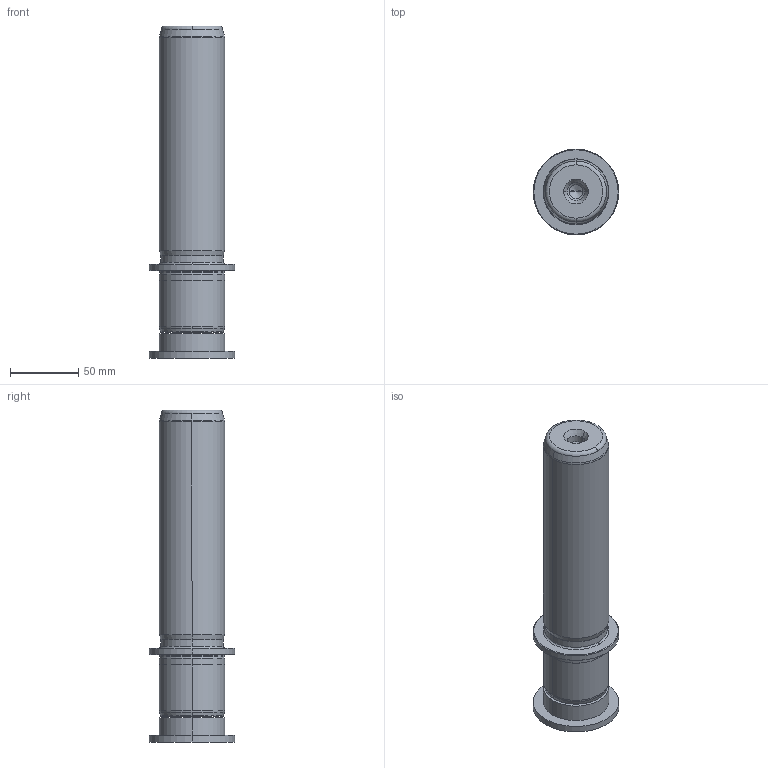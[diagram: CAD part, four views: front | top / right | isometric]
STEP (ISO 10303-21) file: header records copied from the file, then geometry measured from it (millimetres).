
FILE_DESCRIPTION((''),'2;1');
FILE_NAME('P22_048_180.stp','2009-11-02T10:38:17',(''),(''),'Mechanical Desktop 2009','Mechanical Desktop 2009',', , ');
FILE_SCHEMA(('CONFIG_CONTROL_DESIGN'));
Length unit declared in the file: millimetre
Products named in the file (2): Product; blmdl1
Assembly tree (1 placements, depth 2):
  Product
    blmdl1
Bounding box: 63 x 63 x 244 mm (x, y, z)
Volume: 443459.3 mm3; surface area: 54624.2 mm2
Topology: 3 solids, 3 shells, 99 faces, 237 edges, 149 vertices
Faces by surface type: cylinder 32, cone 28, plane 19, torus 10, bspline 10
Entity records: 3419 total; most frequent: CARTESIAN_POINT 923, DIRECTION 570, ORIENTED_EDGE 466, AXIS2_PLACEMENT_3D 246, EDGE_CURVE 233, CIRCLE 155, VERTEX_POINT 149, EDGE_LOOP 110
